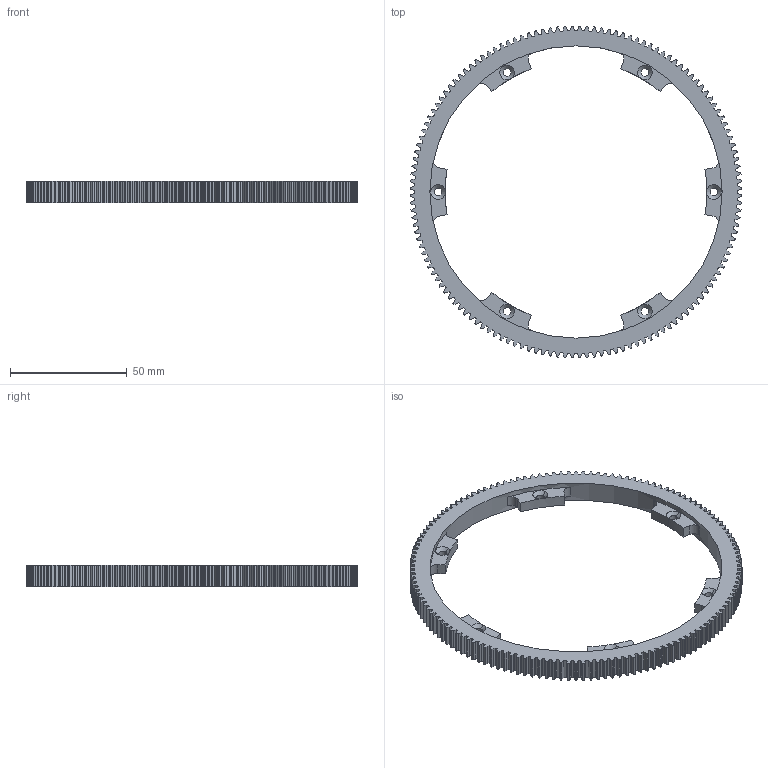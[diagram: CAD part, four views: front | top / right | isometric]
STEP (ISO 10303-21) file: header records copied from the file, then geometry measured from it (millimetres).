
FILE_DESCRIPTION (( 'STEP AP203' ), '1' );
FILE_NAME ('P360GM_ST_100_140_04_120_R_1_reco.STEP', '2024-07-01T06:33:29', ( '' ), ( '' ), 'SwSTEP 2.0', 'SolidWorks 2021', '' );
FILE_SCHEMA (( 'CONFIG_CONTROL_DESIGN' ));
Length unit declared in the file: millimetre
Products named in the file (1): P360GM_ST_100_140_04_120_R_1_reco
Bounding box: 141.98 x 141.98 x 9 mm (x, y, z)
Volume: 31120.2 mm3; surface area: 19201.2 mm2
Topology: 1 solids, 1 shells, 916 faces, 2735 edges, 1819 vertices
Faces by surface type: plane 586, cylinder 318, cone 12
Entity records: 30909 total; most frequent: CARTESIAN_POINT 5503, ORIENTED_EDGE 5470, DIRECTION 5234, EDGE_CURVE 2735, VECTOR 2054, LINE 2054, VERTEX_POINT 1819, AXIS2_PLACEMENT_3D 1590
